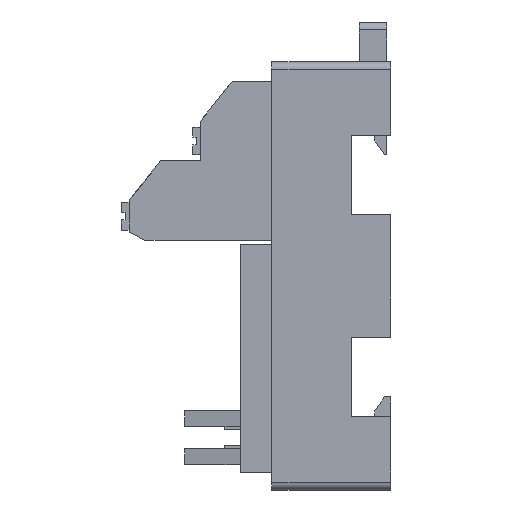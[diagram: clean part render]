
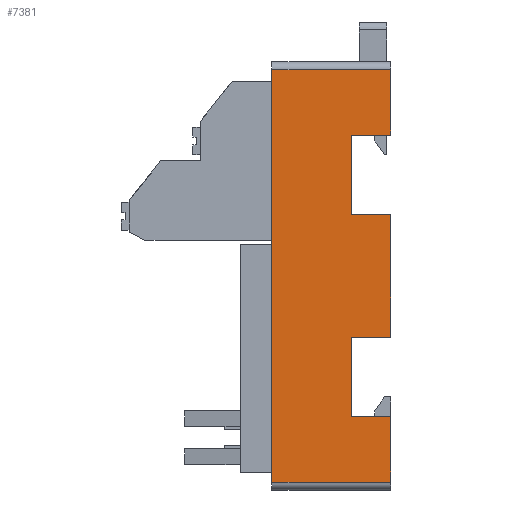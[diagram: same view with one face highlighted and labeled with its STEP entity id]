
A CAD part, left-side view. The second image highlights one B-rep face of the part: STEP entity #7381.
In plain terms, the highlighted planar face has unit normal (-1, 0, 0).
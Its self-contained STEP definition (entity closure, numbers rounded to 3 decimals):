
#155 = CARTESIAN_POINT ( 'NONE',  ( 0., 15., -53. ) ) ;
#169 = LINE ( 'NONE', #14008, #18905 ) ;
#260 = CARTESIAN_POINT ( 'NONE',  ( 0., 15., -44.75 ) ) ;
#312 = VECTOR ( 'NONE', #7866, 1000. ) ;
#389 = DIRECTION ( 'NONE',  ( 0., 0., 1. ) ) ;
#513 = CARTESIAN_POINT ( 'NONE',  ( 0., 15., -34.75 ) ) ;
#871 = CARTESIAN_POINT ( 'NONE',  ( 0., 0., 0. ) ) ;
#931 = VECTOR ( 'NONE', #20091, 1000. ) ;
#1115 = VERTEX_POINT ( 'NONE', #12863 ) ;
#1250 = EDGE_LOOP ( 'NONE', ( #9366, #2102, #11645, #5202, #9987, #10511, #9767, #5161, #7674, #15528, #17829, #12431 ) ) ;
#1444 = CARTESIAN_POINT ( 'NONE',  ( 0., 5., -44.75 ) ) ;
#1570 = VECTOR ( 'NONE', #6495, 1000. ) ;
#1579 = LINE ( 'NONE', #260, #1570 ) ;
#1610 = VERTEX_POINT ( 'NONE', #8617 ) ;
#1618 = CARTESIAN_POINT ( 'NONE',  ( 0., 0., 0. ) ) ;
#1699 = DIRECTION ( 'NONE',  ( 0., -1., 0. ) ) ;
#2102 = ORIENTED_EDGE ( 'NONE', *, *, #13793, .T. ) ;
#2407 = CARTESIAN_POINT ( 'NONE',  ( 0., 5., 0. ) ) ;
#2705 = LINE ( 'NONE', #871, #5877 ) ;
#2775 = LINE ( 'NONE', #4219, #18273 ) ;
#3040 = LINE ( 'NONE', #10838, #312 ) ;
#3118 = DIRECTION ( 'NONE',  ( 0., -1., 0. ) ) ;
#3152 = DIRECTION ( 'NONE',  ( 0., 0., 1. ) ) ;
#3883 = VERTEX_POINT ( 'NONE', #15786 ) ;
#4219 = CARTESIAN_POINT ( 'NONE',  ( 0., 15., -1. ) ) ;
#4389 = CARTESIAN_POINT ( 'NONE',  ( 0., 5., -9.25 ) ) ;
#4754 = CARTESIAN_POINT ( 'NONE',  ( 0., 0., -19.25 ) ) ;
#5161 = ORIENTED_EDGE ( 'NONE', *, *, #8004, .T. ) ;
#5202 = ORIENTED_EDGE ( 'NONE', *, *, #8211, .T. ) ;
#5476 = CARTESIAN_POINT ( 'NONE',  ( 0., 15., 0. ) ) ;
#5877 = VECTOR ( 'NONE', #19828, 1000. ) ;
#6037 = CARTESIAN_POINT ( 'NONE',  ( 0., 15., -19.25 ) ) ;
#6093 = LINE ( 'NONE', #12349, #12626 ) ;
#6495 = DIRECTION ( 'NONE',  ( 0., 1., 0. ) ) ;
#6643 = VECTOR ( 'NONE', #3152, 1000. ) ;
#6721 = VECTOR ( 'NONE', #3118, 1000. ) ;
#6826 = LINE ( 'NONE', #2407, #10497 ) ;
#7381 = ADVANCED_FACE ( 'NONE', ( #12584 ), #18525, .F. ) ;
#7390 = EDGE_CURVE ( 'NONE', #13053, #11869, #3040, .T. ) ;
#7543 = CARTESIAN_POINT ( 'NONE',  ( 0., 15., 0. ) ) ;
#7578 = CARTESIAN_POINT ( 'NONE',  ( 0., 5., -34.75 ) ) ;
#7646 = EDGE_CURVE ( 'NONE', #7952, #17635, #13274, .T. ) ;
#7674 = ORIENTED_EDGE ( 'NONE', *, *, #7390, .T. ) ;
#7728 = LINE ( 'NONE', #9368, #6721 ) ;
#7866 = DIRECTION ( 'NONE',  ( 0., 0., 1. ) ) ;
#7952 = VERTEX_POINT ( 'NONE', #155 ) ;
#7966 = CARTESIAN_POINT ( 'NONE',  ( 0., 0., -1. ) ) ;
#8004 = EDGE_CURVE ( 'NONE', #1610, #13053, #1579, .T. ) ;
#8211 = EDGE_CURVE ( 'NONE', #8693, #17635, #2775, .T. ) ;
#8471 = DIRECTION ( 'NONE',  ( 0., 0., 1. ) ) ;
#8617 = CARTESIAN_POINT ( 'NONE',  ( 0., 0., -44.75 ) ) ;
#8693 = VERTEX_POINT ( 'NONE', #7966 ) ;
#8900 = CARTESIAN_POINT ( 'NONE',  ( 0., 0., -53. ) ) ;
#9051 = DIRECTION ( 'NONE',  ( 0., 0., 1. ) ) ;
#9128 = VERTEX_POINT ( 'NONE', #4754 ) ;
#9133 = CARTESIAN_POINT ( 'NONE',  ( 0., 15., -1. ) ) ;
#9366 = ORIENTED_EDGE ( 'NONE', *, *, #18213, .T. ) ;
#9368 = CARTESIAN_POINT ( 'NONE',  ( 0., 15., -53. ) ) ;
#9475 = VECTOR ( 'NONE', #17626, 1000. ) ;
#9767 = ORIENTED_EDGE ( 'NONE', *, *, #19857, .T. ) ;
#9987 = ORIENTED_EDGE ( 'NONE', *, *, #7646, .F. ) ;
#10032 = LINE ( 'NONE', #513, #9475 ) ;
#10497 = VECTOR ( 'NONE', #389, 1000. ) ;
#10511 = ORIENTED_EDGE ( 'NONE', *, *, #19801, .T. ) ;
#10738 = LINE ( 'NONE', #1618, #6643 ) ;
#10838 = CARTESIAN_POINT ( 'NONE',  ( 0., 5., 0. ) ) ;
#11645 = ORIENTED_EDGE ( 'NONE', *, *, #17081, .T. ) ;
#11869 = VERTEX_POINT ( 'NONE', #7578 ) ;
#11929 = CARTESIAN_POINT ( 'NONE',  ( 0., 0., -9.25 ) ) ;
#12260 = EDGE_CURVE ( 'NONE', #3883, #9128, #10738, .T. ) ;
#12349 = CARTESIAN_POINT ( 'NONE',  ( 0., 0., 0. ) ) ;
#12431 = ORIENTED_EDGE ( 'NONE', *, *, #18854, .T. ) ;
#12584 = FACE_OUTER_BOUND ( 'NONE', #1250, .T. ) ;
#12626 = VECTOR ( 'NONE', #9051, 1000. ) ;
#12863 = CARTESIAN_POINT ( 'NONE',  ( 0., 5., -19.25 ) ) ;
#13053 = VERTEX_POINT ( 'NONE', #1444 ) ;
#13274 = LINE ( 'NONE', #5476, #19587 ) ;
#13793 = EDGE_CURVE ( 'NONE', #16321, #15921, #169, .T. ) ;
#13802 = DIRECTION ( 'NONE',  ( 1., 0., 0. ) ) ;
#14008 = CARTESIAN_POINT ( 'NONE',  ( 0., 15., -9.25 ) ) ;
#15528 = ORIENTED_EDGE ( 'NONE', *, *, #16543, .T. ) ;
#15786 = CARTESIAN_POINT ( 'NONE',  ( 0., 0., -34.75 ) ) ;
#15921 = VERTEX_POINT ( 'NONE', #11929 ) ;
#16294 = VERTEX_POINT ( 'NONE', #8900 ) ;
#16321 = VERTEX_POINT ( 'NONE', #4389 ) ;
#16543 = EDGE_CURVE ( 'NONE', #11869, #3883, #10032, .T. ) ;
#16823 = DIRECTION ( 'NONE',  ( 0., 1., 0. ) ) ;
#17081 = EDGE_CURVE ( 'NONE', #15921, #8693, #2705, .T. ) ;
#17626 = DIRECTION ( 'NONE',  ( 0., -1., 0. ) ) ;
#17635 = VERTEX_POINT ( 'NONE', #9133 ) ;
#17829 = ORIENTED_EDGE ( 'NONE', *, *, #12260, .T. ) ;
#17969 = AXIS2_PLACEMENT_3D ( 'NONE', #7543, #13802, #19965 ) ;
#18213 = EDGE_CURVE ( 'NONE', #1115, #16321, #6826, .T. ) ;
#18242 = LINE ( 'NONE', #6037, #931 ) ;
#18273 = VECTOR ( 'NONE', #16823, 1000. ) ;
#18525 = PLANE ( 'NONE',  #17969 ) ;
#18854 = EDGE_CURVE ( 'NONE', #9128, #1115, #18242, .T. ) ;
#18905 = VECTOR ( 'NONE', #1699, 1000. ) ;
#19587 = VECTOR ( 'NONE', #8471, 1000. ) ;
#19801 = EDGE_CURVE ( 'NONE', #7952, #16294, #7728, .T. ) ;
#19828 = DIRECTION ( 'NONE',  ( 0., 0., 1. ) ) ;
#19857 = EDGE_CURVE ( 'NONE', #16294, #1610, #6093, .T. ) ;
#19965 = DIRECTION ( 'NONE',  ( 0., 0., -1. ) ) ;
#20091 = DIRECTION ( 'NONE',  ( 0., 1., 0. ) ) ;
